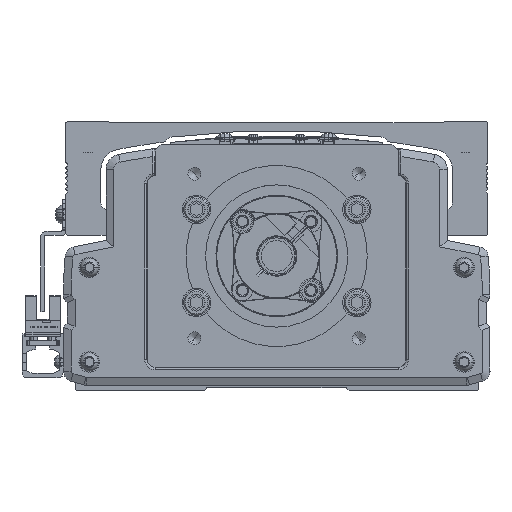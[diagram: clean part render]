
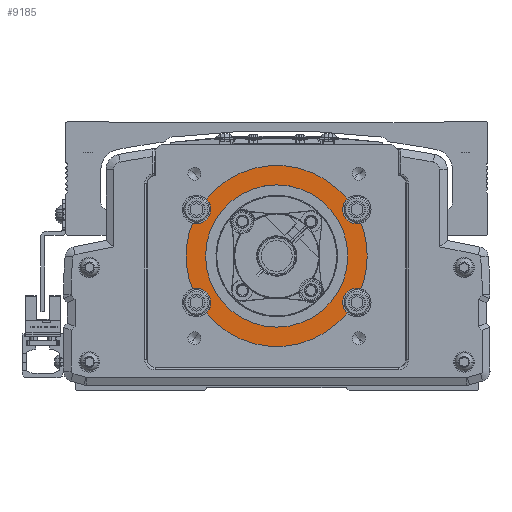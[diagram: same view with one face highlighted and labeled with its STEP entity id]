
A CAD part, front view. The second image highlights one B-rep face of the part: STEP entity #9185.
In plain terms, the highlighted planar face has unit normal (0, -1, 0).
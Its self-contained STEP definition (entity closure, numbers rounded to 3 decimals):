
#9185=ADVANCED_FACE('',(#19567,#19568),#19569,.F.);
#19567=FACE_OUTER_BOUND('',#32716,.T.);
#19568=FACE_BOUND('',#32717,.T.);
#19569=PLANE('',#32718);
#32716=EDGE_LOOP('',(#60138,#60139,#60140,#60141,#60142,#60143,#60144,#60145,#60146,#60147,#60148,#60149,#60150,#60151));
#32717=EDGE_LOOP('',(#60152,#60153));
#32718=AXIS2_PLACEMENT_3D('',#60154,#60155,#60156);
#60138=ORIENTED_EDGE('',*,*,#83337,.F.);
#60139=ORIENTED_EDGE('',*,*,#75647,.T.);
#60140=ORIENTED_EDGE('',*,*,#81195,.T.);
#60141=ORIENTED_EDGE('',*,*,#77086,.F.);
#60142=ORIENTED_EDGE('',*,*,#72950,.F.);
#60143=ORIENTED_EDGE('',*,*,#83338,.T.);
#60144=ORIENTED_EDGE('',*,*,#75857,.F.);
#60145=ORIENTED_EDGE('',*,*,#83339,.F.);
#60146=ORIENTED_EDGE('',*,*,#74353,.T.);
#60147=ORIENTED_EDGE('',*,*,#75231,.T.);
#60148=ORIENTED_EDGE('',*,*,#80128,.F.);
#60149=ORIENTED_EDGE('',*,*,#79020,.F.);
#60150=ORIENTED_EDGE('',*,*,#83340,.T.);
#60151=ORIENTED_EDGE('',*,*,#80601,.F.);
#60152=ORIENTED_EDGE('',*,*,#83341,.F.);
#60153=ORIENTED_EDGE('',*,*,#79274,.F.);
#60154=CARTESIAN_POINT('',(-600.,-496.778,0.));
#60155=DIRECTION('',(0.,1.0,0.));
#60156=DIRECTION('',(-1.0,0.,0.));
#72950=EDGE_CURVE('',#86426,#86428,#86429,.T.);
#74353=EDGE_CURVE('',#88941,#88939,#88942,.T.);
#75231=EDGE_CURVE('',#88939,#90473,#90475,.T.);
#75647=EDGE_CURVE('',#91172,#91169,#91173,.T.);
#75857=EDGE_CURVE('',#91519,#91521,#91522,.T.);
#77086=EDGE_CURVE('',#86428,#93607,#93608,.T.);
#79020=EDGE_CURVE('',#96663,#96665,#96666,.T.);
#79274=EDGE_CURVE('',#97045,#97047,#97048,.T.);
#80128=EDGE_CURVE('',#96665,#90473,#98346,.T.);
#80601=EDGE_CURVE('',#99034,#99036,#99037,.T.);
#81195=EDGE_CURVE('',#91169,#93607,#99847,.T.);
#83337=EDGE_CURVE('',#91172,#99034,#102615,.T.);
#83338=EDGE_CURVE('',#86426,#91521,#102616,.T.);
#83339=EDGE_CURVE('',#88941,#91519,#102617,.T.);
#83340=EDGE_CURVE('',#96663,#99036,#102618,.T.);
#83341=EDGE_CURVE('',#97047,#97045,#102619,.T.);
#86426=VERTEX_POINT('',#106202);
#86428=VERTEX_POINT('',#106205);
#86429=CIRCLE('',#106206,5.5);
#88939=VERTEX_POINT('',#110148);
#88941=VERTEX_POINT('',#110151);
#88942=CIRCLE('',#110152,35.0);
#90473=VERTEX_POINT('',#112263);
#90475=CIRCLE('',#112266,35.0);
#91169=VERTEX_POINT('',#113260);
#91172=VERTEX_POINT('',#113264);
#91173=CIRCLE('',#113265,35.0);
#91519=VERTEX_POINT('',#113801);
#91521=VERTEX_POINT('',#113804);
#91522=CIRCLE('',#113805,5.5);
#93607=VERTEX_POINT('',#116598);
#93608=CIRCLE('',#116599,5.5);
#96663=VERTEX_POINT('',#121031);
#96665=VERTEX_POINT('',#121034);
#96666=CIRCLE('',#121035,5.5);
#97045=VERTEX_POINT('',#121594);
#97047=VERTEX_POINT('',#121597);
#97048=CIRCLE('',#121598,27.5);
#98346=CIRCLE('',#123336,5.5);
#99034=VERTEX_POINT('',#124379);
#99036=VERTEX_POINT('',#124382);
#99037=CIRCLE('',#124383,5.5);
#99847=CIRCLE('',#125606,35.0);
#102615=CIRCLE('',#129852,5.5);
#102616=CIRCLE('',#129853,35.0);
#102617=CIRCLE('',#129854,5.5);
#102618=CIRCLE('',#129855,35.0);
#102619=CIRCLE('',#129856,27.5);
#106202=CARTESIAN_POINT('',(-627.223,-496.778,-21.998));
#106205=CARTESIAN_POINT('',(-625.5,-496.778,-18.));
#106206=AXIS2_PLACEMENT_3D('',#134598,#134599,#134600);
#110148=CARTESIAN_POINT('',(-565.,-496.778,0.));
#110151=CARTESIAN_POINT('',(-567.4,-496.778,-12.738));
#110152=AXIS2_PLACEMENT_3D('',#136595,#136596,#136597);
#112263=CARTESIAN_POINT('',(-567.4,-496.778,12.738));
#112266=AXIS2_PLACEMENT_3D('',#137891,#137892,#137893);
#113260=CARTESIAN_POINT('',(-635.,-496.778,0.));
#113264=CARTESIAN_POINT('',(-632.6,-496.778,12.738));
#113265=AXIS2_PLACEMENT_3D('',#138413,#138414,#138415);
#113801=CARTESIAN_POINT('',(-574.5,-496.778,-18.));
#113804=CARTESIAN_POINT('',(-572.777,-496.778,-21.998));
#113805=AXIS2_PLACEMENT_3D('',#138666,#138667,#138668);
#116598=CARTESIAN_POINT('',(-632.6,-496.778,-12.738));
#116599=AXIS2_PLACEMENT_3D('',#140523,#140524,#140525);
#121031=CARTESIAN_POINT('',(-572.777,-496.778,21.998));
#121034=CARTESIAN_POINT('',(-574.5,-496.778,18.));
#121035=AXIS2_PLACEMENT_3D('',#143256,#143257,#143258);
#121594=CARTESIAN_POINT('',(-627.5,-496.778,0.));
#121597=CARTESIAN_POINT('',(-572.5,-496.778,0.));
#121598=AXIS2_PLACEMENT_3D('',#143532,#143533,#143534);
#123336=AXIS2_PLACEMENT_3D('',#144678,#144679,#144680);
#124379=CARTESIAN_POINT('',(-625.5,-496.778,18.));
#124382=CARTESIAN_POINT('',(-627.223,-496.778,21.998));
#124383=AXIS2_PLACEMENT_3D('',#145320,#145321,#145322);
#125606=AXIS2_PLACEMENT_3D('',#146010,#146011,#146012);
#129852=AXIS2_PLACEMENT_3D('',#148479,#148480,#148481);
#129853=AXIS2_PLACEMENT_3D('',#148482,#148483,#148484);
#129854=AXIS2_PLACEMENT_3D('',#148485,#148486,#148487);
#129855=AXIS2_PLACEMENT_3D('',#148488,#148489,#148490);
#129856=AXIS2_PLACEMENT_3D('',#148491,#148492,#148493);
#134598=CARTESIAN_POINT('',(-631.,-496.778,-18.));
#134599=DIRECTION('',(0.,-1.0,0.));
#134600=DIRECTION('',(-1.0,0.,0.));
#136595=CARTESIAN_POINT('',(-600.,-496.778,0.));
#136596=DIRECTION('',(0.,-1.0,0.));
#136597=DIRECTION('',(-1.0,0.,0.));
#137891=CARTESIAN_POINT('',(-600.,-496.778,0.));
#137892=DIRECTION('',(0.,-1.0,0.));
#137893=DIRECTION('',(-1.0,0.,0.));
#138413=CARTESIAN_POINT('',(-600.,-496.778,0.));
#138414=DIRECTION('',(0.,-1.0,0.));
#138415=DIRECTION('',(-1.0,0.,0.));
#138666=CARTESIAN_POINT('',(-569.,-496.778,-18.));
#138667=DIRECTION('',(0.,-1.0,0.));
#138668=DIRECTION('',(1.0,0.,0.));
#140523=CARTESIAN_POINT('',(-631.,-496.778,-18.));
#140524=DIRECTION('',(0.,-1.0,0.));
#140525=DIRECTION('',(-1.0,0.,0.));
#143256=CARTESIAN_POINT('',(-569.,-496.778,18.));
#143257=DIRECTION('',(0.,-1.0,0.));
#143258=DIRECTION('',(1.0,0.,0.));
#143532=CARTESIAN_POINT('',(-600.,-496.778,0.));
#143533=DIRECTION('',(0.,-1.0,0.));
#143534=DIRECTION('',(-1.0,0.,0.));
#144678=CARTESIAN_POINT('',(-569.,-496.778,18.));
#144679=DIRECTION('',(0.,-1.0,0.));
#144680=DIRECTION('',(1.0,0.,0.));
#145320=CARTESIAN_POINT('',(-631.,-496.778,18.));
#145321=DIRECTION('',(0.,-1.0,0.));
#145322=DIRECTION('',(-1.0,0.,0.));
#146010=CARTESIAN_POINT('',(-600.,-496.778,0.));
#146011=DIRECTION('',(0.,-1.0,0.));
#146012=DIRECTION('',(-1.0,0.,0.));
#148479=CARTESIAN_POINT('',(-631.,-496.778,18.));
#148480=DIRECTION('',(0.,-1.0,0.));
#148481=DIRECTION('',(-1.0,0.,0.));
#148482=CARTESIAN_POINT('',(-600.,-496.778,0.));
#148483=DIRECTION('',(0.,-1.0,0.));
#148484=DIRECTION('',(-1.0,0.,0.));
#148485=CARTESIAN_POINT('',(-569.,-496.778,-18.));
#148486=DIRECTION('',(0.,-1.0,0.));
#148487=DIRECTION('',(1.0,0.,0.));
#148488=CARTESIAN_POINT('',(-600.,-496.778,0.));
#148489=DIRECTION('',(0.,-1.0,0.));
#148490=DIRECTION('',(-1.0,0.,0.));
#148491=CARTESIAN_POINT('',(-600.,-496.778,0.));
#148492=DIRECTION('',(0.,-1.0,0.));
#148493=DIRECTION('',(-1.0,0.,0.));
